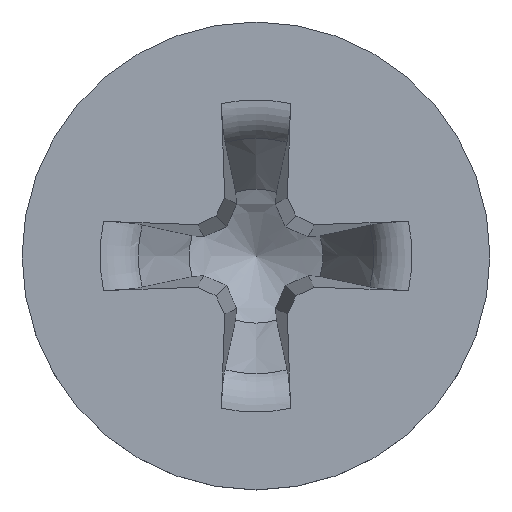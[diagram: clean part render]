
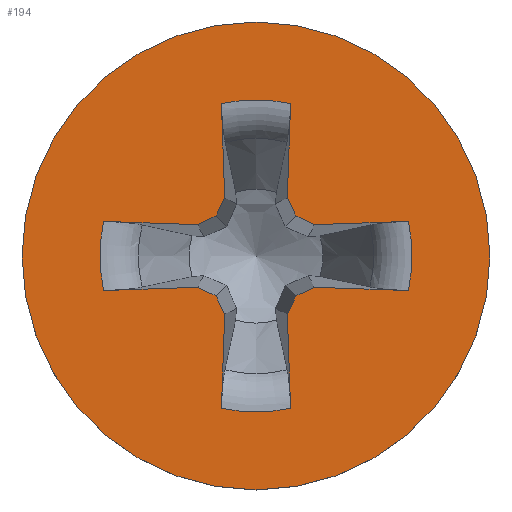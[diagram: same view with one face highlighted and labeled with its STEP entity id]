
A CAD part, top view. The second image highlights one B-rep face of the part: STEP entity #194.
In plain terms, the highlighted planar face has unit normal (0, 0, 1).
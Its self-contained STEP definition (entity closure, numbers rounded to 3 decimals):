
#57=LINE('',#1748,#102);
#58=LINE('',#1753,#103);
#59=LINE('',#1755,#104);
#60=LINE('',#1757,#105);
#61=LINE('',#1759,#106);
#62=LINE('',#1763,#107);
#63=LINE('',#1765,#108);
#64=LINE('',#1767,#109);
#65=LINE('',#1769,#110);
#66=LINE('',#1773,#111);
#67=LINE('',#1775,#112);
#68=LINE('',#1777,#113);
#69=LINE('',#1779,#114);
#70=LINE('',#1783,#115);
#71=LINE('',#1785,#116);
#72=LINE('',#1787,#117);
#102=VECTOR('',#1051,1.);
#103=VECTOR('',#1054,1.);
#104=VECTOR('',#1055,1.);
#105=VECTOR('',#1056,1.);
#106=VECTOR('',#1057,1.);
#107=VECTOR('',#1060,1.);
#108=VECTOR('',#1061,1.);
#109=VECTOR('',#1062,1.);
#110=VECTOR('',#1063,1.);
#111=VECTOR('',#1066,1.);
#112=VECTOR('',#1067,1.);
#113=VECTOR('',#1068,1.);
#114=VECTOR('',#1069,1.);
#115=VECTOR('',#1072,1.);
#116=VECTOR('',#1073,1.);
#117=VECTOR('',#1074,1.);
#151=PLANE('',#986);
#178=FACE_BOUND('',#311,.T.);
#179=FACE_BOUND('',#312,.T.);
#194=ADVANCED_FACE('',(#178,#179),#151,.F.);
#311=EDGE_LOOP('',(#474,#475,#476,#477,#478,#479,#480,#481,#482,#483,#484,
#485,#486,#487,#488,#489,#490,#491,#492,#493));
#312=EDGE_LOOP('',(#494));
#474=ORIENTED_EDGE('',*,*,#838,.F.);
#475=ORIENTED_EDGE('',*,*,#839,.T.);
#476=ORIENTED_EDGE('',*,*,#840,.F.);
#477=ORIENTED_EDGE('',*,*,#841,.F.);
#478=ORIENTED_EDGE('',*,*,#842,.F.);
#479=ORIENTED_EDGE('',*,*,#843,.F.);
#480=ORIENTED_EDGE('',*,*,#844,.T.);
#481=ORIENTED_EDGE('',*,*,#845,.F.);
#482=ORIENTED_EDGE('',*,*,#846,.F.);
#483=ORIENTED_EDGE('',*,*,#847,.F.);
#484=ORIENTED_EDGE('',*,*,#848,.F.);
#485=ORIENTED_EDGE('',*,*,#849,.T.);
#486=ORIENTED_EDGE('',*,*,#850,.F.);
#487=ORIENTED_EDGE('',*,*,#851,.F.);
#488=ORIENTED_EDGE('',*,*,#852,.F.);
#489=ORIENTED_EDGE('',*,*,#853,.F.);
#490=ORIENTED_EDGE('',*,*,#854,.T.);
#491=ORIENTED_EDGE('',*,*,#855,.F.);
#492=ORIENTED_EDGE('',*,*,#856,.F.);
#493=ORIENTED_EDGE('',*,*,#857,.F.);
#494=ORIENTED_EDGE('',*,*,#858,.F.);
#743=VERTEX_POINT('',#1749);
#744=VERTEX_POINT('',#1750);
#745=VERTEX_POINT('',#1752);
#746=VERTEX_POINT('',#1754);
#747=VERTEX_POINT('',#1756);
#748=VERTEX_POINT('',#1758);
#749=VERTEX_POINT('',#1760);
#750=VERTEX_POINT('',#1762);
#751=VERTEX_POINT('',#1764);
#752=VERTEX_POINT('',#1766);
#753=VERTEX_POINT('',#1768);
#754=VERTEX_POINT('',#1770);
#755=VERTEX_POINT('',#1772);
#756=VERTEX_POINT('',#1774);
#757=VERTEX_POINT('',#1776);
#758=VERTEX_POINT('',#1778);
#759=VERTEX_POINT('',#1780);
#760=VERTEX_POINT('',#1782);
#761=VERTEX_POINT('',#1784);
#762=VERTEX_POINT('',#1786);
#763=VERTEX_POINT('',#1789);
#838=EDGE_CURVE('',#743,#744,#57,.T.);
#839=EDGE_CURVE('',#743,#745,#953,.T.);
#840=EDGE_CURVE('',#746,#745,#58,.T.);
#841=EDGE_CURVE('',#747,#746,#59,.T.);
#842=EDGE_CURVE('',#748,#747,#60,.T.);
#843=EDGE_CURVE('',#749,#748,#61,.T.);
#844=EDGE_CURVE('',#749,#750,#954,.T.);
#845=EDGE_CURVE('',#751,#750,#62,.T.);
#846=EDGE_CURVE('',#752,#751,#63,.T.);
#847=EDGE_CURVE('',#753,#752,#64,.T.);
#848=EDGE_CURVE('',#754,#753,#65,.T.);
#849=EDGE_CURVE('',#754,#755,#955,.T.);
#850=EDGE_CURVE('',#756,#755,#66,.T.);
#851=EDGE_CURVE('',#757,#756,#67,.T.);
#852=EDGE_CURVE('',#758,#757,#68,.T.);
#853=EDGE_CURVE('',#759,#758,#69,.T.);
#854=EDGE_CURVE('',#759,#760,#956,.T.);
#855=EDGE_CURVE('',#761,#760,#70,.T.);
#856=EDGE_CURVE('',#762,#761,#71,.T.);
#857=EDGE_CURVE('',#744,#762,#72,.T.);
#858=EDGE_CURVE('',#763,#763,#957,.T.);
#953=CIRCLE('',#981,2.672);
#954=CIRCLE('',#982,2.672);
#955=CIRCLE('',#983,2.672);
#956=CIRCLE('',#984,2.672);
#957=CIRCLE('',#985,4.);
#981=AXIS2_PLACEMENT_3D('',#1751,#1052,#1053);
#982=AXIS2_PLACEMENT_3D('',#1761,#1058,#1059);
#983=AXIS2_PLACEMENT_3D('',#1771,#1064,#1065);
#984=AXIS2_PLACEMENT_3D('',#1781,#1070,#1071);
#985=AXIS2_PLACEMENT_3D('',#1788,#1075,#1076);
#986=AXIS2_PLACEMENT_3D('',#1790,#1077,#1078);
#1051=DIRECTION('',(-0.999,-0.035,0.));
#1052=DIRECTION('',(0.,0.,-1.));
#1053=DIRECTION('',(-1.,0.,0.));
#1054=DIRECTION('',(0.999,-0.035,0.));
#1055=DIRECTION('',(0.906,0.423,0.));
#1056=DIRECTION('',(0.423,0.906,0.));
#1057=DIRECTION('',(-0.035,0.999,0.));
#1058=DIRECTION('',(0.,0.,-1.));
#1059=DIRECTION('',(-1.,0.,0.));
#1060=DIRECTION('',(-0.035,-0.999,0.));
#1061=DIRECTION('',(0.423,-0.906,0.));
#1062=DIRECTION('',(0.906,-0.423,0.));
#1063=DIRECTION('',(0.999,0.035,0.));
#1064=DIRECTION('',(0.,0.,-1.));
#1065=DIRECTION('',(-1.,0.,0.));
#1066=DIRECTION('',(-0.999,0.035,0.));
#1067=DIRECTION('',(-0.906,-0.423,0.));
#1068=DIRECTION('',(-0.423,-0.906,0.));
#1069=DIRECTION('',(0.035,-0.999,0.));
#1070=DIRECTION('',(0.,0.,-1.));
#1071=DIRECTION('',(-1.,0.,0.));
#1072=DIRECTION('',(0.035,0.999,0.));
#1073=DIRECTION('',(-0.423,0.906,0.));
#1074=DIRECTION('',(-0.906,0.423,0.));
#1075=DIRECTION('',(0.,0.,-1.));
#1076=DIRECTION('',(-1.,0.,0.));
#1077=DIRECTION('',(0.,0.,-1.));
#1078=DIRECTION('',(-1.,0.,0.));
#1748=CARTESIAN_POINT('',(-0.017,0.5,3.135));
#1749=CARTESIAN_POINT('',(2.606,0.591,3.135));
#1750=CARTESIAN_POINT('',(0.999,0.535,3.135));
#1751=CARTESIAN_POINT('',(0.,0.,3.135));
#1752=CARTESIAN_POINT('',(2.606,-0.591,3.135));
#1753=CARTESIAN_POINT('',(-0.017,-0.5,3.135));
#1754=CARTESIAN_POINT('',(0.999,-0.535,3.135));
#1755=CARTESIAN_POINT('',(0.383,-0.822,3.135));
#1756=CARTESIAN_POINT('',(0.683,-0.683,3.135));
#1757=CARTESIAN_POINT('',(0.822,-0.383,3.135));
#1758=CARTESIAN_POINT('',(0.535,-0.999,3.135));
#1759=CARTESIAN_POINT('',(0.5,0.017,3.135));
#1760=CARTESIAN_POINT('',(0.591,-2.606,3.135));
#1761=CARTESIAN_POINT('',(0.,0.,3.135));
#1762=CARTESIAN_POINT('',(-0.591,-2.606,3.135));
#1763=CARTESIAN_POINT('',(-0.5,0.017,3.135));
#1764=CARTESIAN_POINT('',(-0.535,-0.999,3.135));
#1765=CARTESIAN_POINT('',(-0.822,-0.383,3.135));
#1766=CARTESIAN_POINT('',(-0.683,-0.683,3.135));
#1767=CARTESIAN_POINT('',(-0.383,-0.822,3.135));
#1768=CARTESIAN_POINT('',(-0.999,-0.535,3.135));
#1769=CARTESIAN_POINT('',(0.017,-0.5,3.135));
#1770=CARTESIAN_POINT('',(-2.606,-0.591,3.135));
#1771=CARTESIAN_POINT('',(0.,0.,3.135));
#1772=CARTESIAN_POINT('',(-2.606,0.591,3.135));
#1773=CARTESIAN_POINT('',(0.017,0.5,3.135));
#1774=CARTESIAN_POINT('',(-0.999,0.535,3.135));
#1775=CARTESIAN_POINT('',(-0.383,0.822,3.135));
#1776=CARTESIAN_POINT('',(-0.683,0.683,3.135));
#1777=CARTESIAN_POINT('',(-0.822,0.383,3.135));
#1778=CARTESIAN_POINT('',(-0.535,0.999,3.135));
#1779=CARTESIAN_POINT('',(-0.5,-0.017,3.135));
#1780=CARTESIAN_POINT('',(-0.591,2.606,3.135));
#1781=CARTESIAN_POINT('',(0.,0.,3.135));
#1782=CARTESIAN_POINT('',(0.591,2.606,3.135));
#1783=CARTESIAN_POINT('',(0.5,-0.017,3.135));
#1784=CARTESIAN_POINT('',(0.535,0.999,3.135));
#1785=CARTESIAN_POINT('',(0.822,0.383,3.135));
#1786=CARTESIAN_POINT('',(0.683,0.683,3.135));
#1787=CARTESIAN_POINT('',(0.383,0.822,3.135));
#1788=CARTESIAN_POINT('',(0.,0.,3.135));
#1789=CARTESIAN_POINT('',(-4.,0.,3.135));
#1790=CARTESIAN_POINT('',(0.,0.,3.135));
